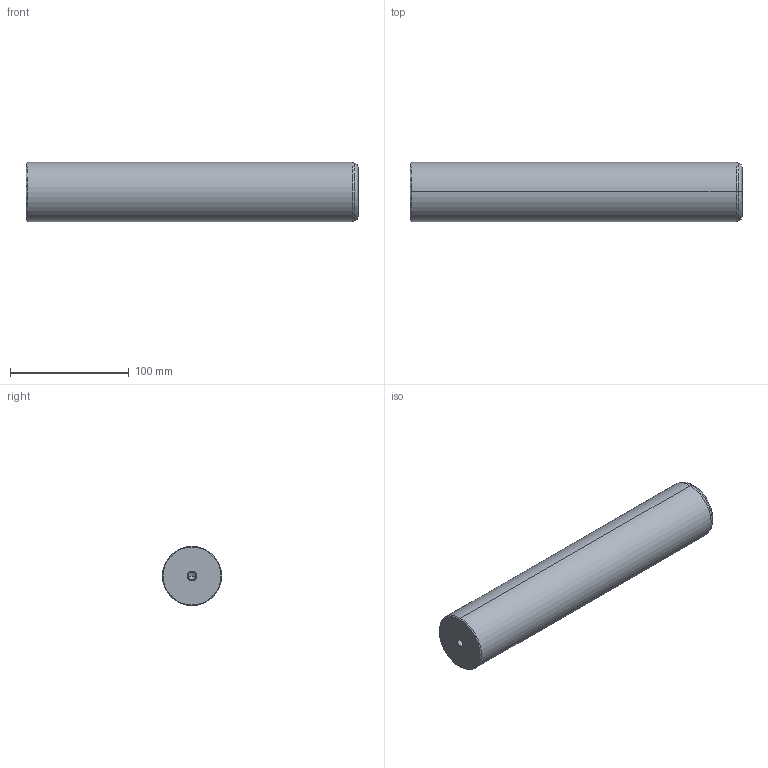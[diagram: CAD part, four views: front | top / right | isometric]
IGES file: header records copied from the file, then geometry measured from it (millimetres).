
Start section: START RECORD GO HERE.
Global section: file name: 720-50x280.igs; native system: DASSAULT SYSTEMES CATIA V5 R20 - www.3ds.com; preprocessor: CATIA Version 5 Release 20 ; author: Utente; organization: NB04-ASUS; date: 20201230.224101; units: millimetre
Bounding box: 280 x 50 x 50 mm (x, y, z)
Surface area: 48502 mm2 (no closed solid volume)
Topology: 0 solids, 0 shells, 22 faces, 108 edges, 104 vertices
Faces by surface type: revolution 20, plane 2
